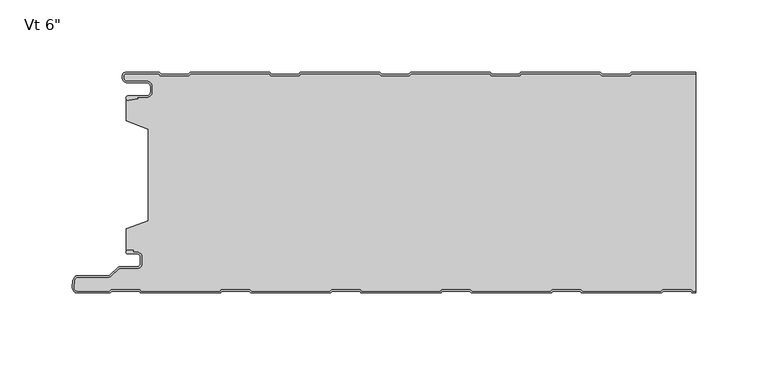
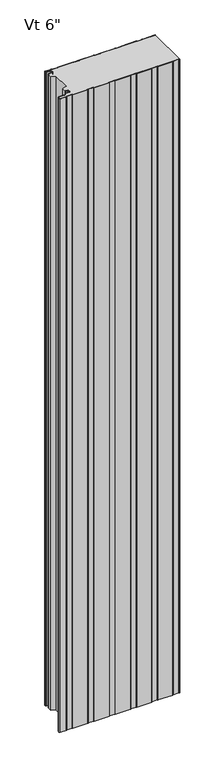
"""IFC4 building model written with IfcOpenShell, lengths in millimetres: plate geometry."""

from ifc_helpers import new_model, si_unit, point, frame, frame_2d, origin, origin_with_axes, place, context, project, spatial, polyline, circle_curve, trimmed, segment, composite_curve, outline, extrude, source, transform, mapped, element, save
from ifc_brep_helpers import plane_surface, cylinder_surface, revolved_surface, advanced_brep


def plate_17b216fb(model_context):
    return source(origin(), model_context, "Body", "SolidModel", [
        extrude(outline(composite_curve([segment(polyline([(-196.9639401, -1.03e-05), (-173.8991777, -1.03e-05), (-172.6989573, -1.2002307), (-153.8919247, -1.2002307), (-152.6916939, 0.0), (-97.6993404, 0.0), (-96.4991097, -1.2002307), (-77.6920771, -1.2002307), (-76.4918463, 0.0), (-21.5159312, 0.0), (-20.3157004, -1.2002307), (-1.5086678, -1.2002307), (-0.3084371, 0.0), (54.667478, 0.0), (55.8677088, -1.2002307), (74.6747414, -1.2002307), (75.8749721, 0.0), (130.8673256, 0.0), (132.0675564, -1.2002307), (150.874589, -1.2002307), (152.0748197, 0.0), (196.6137654, 0.0), (196.6137654, -1.0), (152.4890333, -1.0), (151.2888025, -2.2002307), (131.6533428, -2.2002307), (130.4531121, -1.0), (76.2891857, -1.0), (75.0889549, -2.2002307), (55.4534952, -2.2002307), (54.2532645, -1.0), (0.1057765, -1.0), (-1.0944543, -2.2002307), (-20.729914, -2.2002307), (-21.9301447, -1.0), (-76.0776328, -1.0), (-77.2778635, -2.2002307), (-96.9133232, -2.2002307), (-98.113554, -1.0), (-152.2774804, -1.0), (-153.4777111, -2.2002307), (-173.1131708, -2.2002307), (-174.3133912, -1.0000103), (-196.9839768, -1.0000103)]), True, "CONTINUOUS"), segment(trimmed(circle_curve(frame_2d((-197.0487242, -2.3984828)), 1.3999705), [point((-196.9839768, -1.0000103))], [point((-198.4486947, -2.3984828))], True, "CARTESIAN"), True, "CONTINUOUS"), segment(polyline([(-198.4486947, -2.3984828), (-198.4486947, -3.9515996)]), True, "CONTINUOUS"), segment(trimmed(circle_curve(frame_2d((-196.2386394, -3.9515996)), 2.2100553), [point((-198.4486947, -3.9515996))], [point((-196.2386394, -6.1616549))], True, "CARTESIAN"), True, "CONTINUOUS"), segment(polyline([(-196.2386394, -6.1616549), (-182.7094114, -6.1616549)]), True, "CONTINUOUS"), segment(trimmed(circle_curve(frame_2d((-182.7094114, -9.881641)), 3.7199861), [point((-182.7094114, -6.1616549))], [point((-178.9894252, -9.881641))], False, "CARTESIAN"), True, "CONTINUOUS"), segment(polyline([(-178.9894252, -9.881641), (-178.9894252, -13.5282389)]), True, "CONTINUOUS"), segment(trimmed(circle_curve(frame_2d((-182.7094216, -13.5282389)), 3.7199964), [point((-178.9894252, -13.5282389))], [point((-182.7094216, -17.2482353))], False, "CARTESIAN"), True, "CONTINUOUS"), segment(polyline([(-182.7094216, -17.2482353), (-189.0545396, -17.2482353), (-188.8919338, -18.1704184), (-195.1454629, -19.2730843)]), True, "CONTINUOUS"), segment(trimmed(circle_curve(frame_2d((-195.4101029, -17.7722363)), 1.524001), [point((-195.1454629, -19.2730843))], [point((-195.4101029, -16.2482353))], False, "CARTESIAN"), True, "CONTINUOUS"), segment(polyline([(-195.4101029, -16.2482353), (-182.7094216, -16.2482353)]), True, "CONTINUOUS"), segment(trimmed(circle_curve(frame_2d((-182.7094216, -13.5282389)), 2.7199964), [point((-182.7094216, -16.2482353))], [point((-179.9894252, -13.5282389))], True, "CARTESIAN"), True, "CONTINUOUS"), segment(polyline([(-179.9894252, -13.5282389), (-179.9894252, -9.881641)]), True, "CONTINUOUS"), segment(trimmed(circle_curve(frame_2d((-182.7094114, -9.881641)), 2.7199861), [point((-179.9894252, -9.881641))], [point((-182.7094114, -7.1616549))], True, "CARTESIAN"), True, "CONTINUOUS"), segment(polyline([(-182.7094114, -7.1616549), (-196.2386394, -7.1616549)]), True, "CONTINUOUS"), segment(trimmed(circle_curve(frame_2d((-196.2386394, -3.9515996)), 3.2100553), [point((-196.2386394, -7.1616549))], [point((-199.4486948, -3.9515996))], False, "CARTESIAN"), True, "CONTINUOUS"), segment(polyline([(-199.4486948, -3.9515996), (-199.4486947, -2.3984828)]), True, "CONTINUOUS"), segment(trimmed(circle_curve(frame_2d((-197.0487242, -2.3984828)), 2.3999705), [point((-199.4486947, -2.3984828))], [point((-196.9639401, -1.03e-05))], False, "CARTESIAN"), True, "CONTINUOUS")], self_intersect=False)), origin_with_axes(), (0.0, 0.0, 1.0), 2400.0),
        extrude(outline(composite_curve([segment(polyline([(-195.7329864, -122.9057711), (-191.9745857, -122.9057711), (-191.9745857, -124.3042547), (-189.2754693, -124.3042547)]), True, "CONTINUOUS"), segment(trimmed(circle_curve(frame_2d((-189.2754693, -127.6542546)), 3.3499999), [point((-189.2754693, -124.3042547))], [point((-185.9254694, -127.6542546))], False, "CARTESIAN"), True, "CONTINUOUS"), segment(polyline([(-185.9254694, -127.6542546), (-185.9254694, -132.0542544)]), True, "CONTINUOUS"), segment(trimmed(circle_curve(frame_2d((-189.2754693, -132.0542544)), 3.3499999), [point((-185.9254694, -132.0542544))], [point((-189.2754693, -135.4042543))], False, "CARTESIAN"), True, "CONTINUOUS"), segment(polyline([(-189.2754693, -135.4042543), (-201.0863815, -135.4042543)]), True, "CONTINUOUS"), segment(trimmed(circle_curve(frame_2d((-201.0863815, -137.1042543)), 1.7), [point((-201.0863815, -135.4042543))], [point((-202.288463, -135.9021728))], True, "CARTESIAN"), True, "CONTINUOUS"), segment(polyline([(-202.288463, -135.9021728), (-207.029022, -140.6427317)]), True, "CONTINUOUS"), segment(trimmed(circle_curve(frame_2d((-208.8674996, -138.8042541)), 2.6), [point((-207.029022, -140.6427317))], [point((-208.8674996, -141.4042541))], False, "CARTESIAN"), True, "CONTINUOUS"), segment(polyline([(-208.8674996, -141.4042541), (-229.8742569, -141.4042541)]), True, "CONTINUOUS"), segment(trimmed(circle_curve(frame_2d((-229.8742569, -144.1042541)), 2.7), [point((-229.8742569, -141.4042541))], [point((-232.563964, -143.8687213))], True, "CARTESIAN"), True, "CONTINUOUS"), segment(polyline([(-232.563964, -143.8687213), (-232.9796492, -148.6157099)]), True, "CONTINUOUS"), segment(trimmed(circle_curve(frame_2d((-230.4287597, -148.8390867)), 2.5606512), [point((-232.9796492, -148.6157099))], [point((-230.4287597, -151.3997378))], True, "CARTESIAN"), True, "CONTINUOUS"), segment(polyline([(-230.4287597, -151.3997378), (-208.4557382, -151.3997378), (-207.2557697, -150.1997693), (-187.5363572, -150.1997693), (-186.3361265, -151.4), (-132.2559947, -151.4), (-131.055764, -150.1997693), (-111.3363515, -150.1997693), (-110.1361208, -151.4), (-56.055989, -151.4), (-54.8557583, -150.1997693), (-35.1363458, -150.1997693), (-33.9361151, -151.4), (20.1440167, -151.4), (21.3442474, -150.1997693), (41.0636599, -150.1997693), (42.2638906, -151.4), (96.3440224, -151.4), (97.5442531, -150.1997693), (117.2636656, -150.1997693), (118.4638963, -151.4), (172.5440281, -151.4), (173.7442588, -150.1997693), (193.4636713, -150.1997693), (194.663902, -151.4), (196.6137654, -151.4), (196.6137654, -152.4), (194.8333369, -152.4)]), True, "CONTINUOUS"), segment(trimmed(circle_curve(frame_2d((194.8256836, -151.0000237)), 1.3999972), [point((194.8333369, -152.4))], [point((193.7816329, -151.9327349))], False, "CARTESIAN"), True, "CONTINUOUS"), segment(polyline([(193.7816329, -151.9327349), (193.0486673, -151.1997693), (174.1579981, -151.1997693), (173.4250534, -151.932714)]), True, "CONTINUOUS"), segment(trimmed(circle_curve(frame_2d((172.3810026, -151.0000028)), 1.3999972), [point((173.4250534, -151.932714))], [point((172.3810026, -152.4))], False, "CARTESIAN"), True, "CONTINUOUS"), segment(polyline([(172.3810026, -152.4), (118.6334893, -152.4)]), True, "CONTINUOUS"), segment(trimmed(circle_curve(frame_2d((118.625836, -151.0000237)), 1.3999972), [point((118.6334893, -152.4))], [point((117.5817853, -151.9327349))], False, "CARTESIAN"), True, "CONTINUOUS"), segment(polyline([(117.5817853, -151.9327349), (116.8488197, -151.1997693), (97.9581505, -151.1997693), (97.2252058, -151.932714)]), True, "CONTINUOUS"), segment(trimmed(circle_curve(frame_2d((96.181155, -151.0000028)), 1.3999972), [point((97.2252058, -151.932714))], [point((96.181155, -152.4))], False, "CARTESIAN"), True, "CONTINUOUS"), segment(polyline([(96.181155, -152.4), (42.4336417, -152.4)]), True, "CONTINUOUS"), segment(trimmed(circle_curve(frame_2d((42.4259884, -151.0000237)), 1.3999972), [point((42.4336417, -152.4))], [point((41.3819376, -151.9327349))], False, "CARTESIAN"), True, "CONTINUOUS"), segment(polyline([(41.3819376, -151.9327349), (40.6489721, -151.1997693), (21.7583029, -151.1997693), (21.0253582, -151.932714)]), True, "CONTINUOUS"), segment(trimmed(circle_curve(frame_2d((19.9813074, -151.0000028)), 1.3999972), [point((21.0253582, -151.932714))], [point((19.9813074, -152.4))], False, "CARTESIAN"), True, "CONTINUOUS"), segment(polyline([(19.9813074, -152.4), (-33.7662059, -152.4)]), True, "CONTINUOUS"), segment(trimmed(circle_curve(frame_2d((-33.7738592, -151.0000237)), 1.3999972), [point((-33.7662059, -152.4))], [point((-34.81791, -151.9327349))], False, "CARTESIAN"), True, "CONTINUOUS"), segment(polyline([(-34.81791, -151.9327349), (-35.5508755, -151.1997693), (-54.4415447, -151.1997693), (-55.1744894, -151.932714)]), True, "CONTINUOUS"), segment(trimmed(circle_curve(frame_2d((-56.2185402, -151.0000028)), 1.3999972), [point((-55.1744894, -151.932714))], [point((-56.2185402, -152.4))], False, "CARTESIAN"), True, "CONTINUOUS"), segment(polyline([(-56.2185402, -152.4), (-109.9660535, -152.4)]), True, "CONTINUOUS"), segment(trimmed(circle_curve(frame_2d((-109.9737068, -151.0000237)), 1.3999972), [point((-109.9660535, -152.4))], [point((-111.0177576, -151.9327349))], False, "CARTESIAN"), True, "CONTINUOUS"), segment(polyline([(-111.0177576, -151.9327349), (-111.7507231, -151.1997693), (-130.6413923, -151.1997693), (-131.374337, -151.932714)]), True, "CONTINUOUS"), segment(trimmed(circle_curve(frame_2d((-132.4183878, -151.0000028)), 1.3999972), [point((-131.374337, -151.932714))], [point((-132.4183878, -152.4))], False, "CARTESIAN"), True, "CONTINUOUS"), segment(polyline([(-132.4183878, -152.4), (-186.1659011, -152.4)]), True, "CONTINUOUS"), segment(trimmed(circle_curve(frame_2d((-186.1735544, -151.0000237)), 1.3999972), [point((-186.1659011, -152.4))], [point((-187.2176052, -151.9327349))], False, "CARTESIAN"), True, "CONTINUOUS"), segment(polyline([(-187.2176052, -151.9327349), (-187.9505707, -151.1997693), (-206.8415561, -151.1997693), (-207.5742824, -151.9324955)]), True, "CONTINUOUS"), segment(trimmed(circle_curve(frame_2d((-208.6182354, -150.9998717)), 1.3998661), [point((-207.5742824, -151.9324955))], [point((-208.6182354, -152.3997378))], False, "CARTESIAN"), True, "CONTINUOUS"), segment(polyline([(-208.6182354, -152.3997378), (-230.4287597, -152.3997378)]), True, "CONTINUOUS"), segment(trimmed(circle_curve(frame_2d((-230.4287597, -148.8390867)), 3.5606512), [point((-230.4287597, -152.3997378))], [point((-233.975837, -148.5284755))], False, "CARTESIAN"), True, "CONTINUOUS"), segment(polyline([(-233.975837, -148.5284755), (-233.5601518, -143.781487)]), True, "CONTINUOUS"), segment(trimmed(circle_curve(frame_2d((-229.8742569, -144.1042541)), 3.7), [point((-233.5601518, -143.781487))], [point((-229.8742569, -140.4042541))], False, "CARTESIAN"), True, "CONTINUOUS"), segment(polyline([(-229.8742569, -140.4042541), (-208.8674996, -140.4042541)]), True, "CONTINUOUS"), segment(trimmed(circle_curve(frame_2d((-208.8674996, -138.8042541)), 1.6), [point((-208.8674996, -140.4042541))], [point((-207.7361288, -139.935625))], True, "CARTESIAN"), True, "CONTINUOUS"), segment(polyline([(-207.7361288, -139.935625), (-202.9955698, -135.195066)]), True, "CONTINUOUS"), segment(trimmed(circle_curve(frame_2d((-201.0863815, -137.1042543)), 2.7), [point((-202.9955698, -135.195066))], [point((-201.0863815, -134.4042543))], False, "CARTESIAN"), True, "CONTINUOUS"), segment(polyline([(-201.0863815, -134.4042543), (-189.2754693, -134.4042543)]), True, "CONTINUOUS"), segment(trimmed(circle_curve(frame_2d((-189.2754693, -132.0542544)), 2.3499999), [point((-189.2754693, -134.4042543))], [point((-186.9254694, -132.0542544))], True, "CARTESIAN"), True, "CONTINUOUS"), segment(polyline([(-186.9254694, -132.0542544), (-186.9254694, -127.6542546)]), True, "CONTINUOUS"), segment(trimmed(circle_curve(frame_2d((-189.2754693, -127.6542546)), 2.3499999), [point((-186.9254694, -127.6542546))], [point((-189.2754693, -125.3042547))], True, "CARTESIAN"), True, "CONTINUOUS"), segment(polyline([(-189.2754693, -125.3042547), (-195.7947883, -125.3042547)]), True, "CONTINUOUS"), segment(trimmed(circle_curve(frame_2d((-195.734501, -124.1057701)), 1.2), [point((-195.7947883, -125.3042547))], [point((-195.7329864, -122.9057711))], False, "CARTESIAN"), True, "CONTINUOUS")], self_intersect=False)), origin_with_axes(), (0.0, 0.0, 1.0), 2400.0),
        advanced_brep(
        [(-189.2754693, -124.3042547, 2400.0), (-185.9254694, -127.6542546, 2400.0), (-185.9254694, -132.0542544, 2400.0), (-189.2754693, -135.4042543, 2400.0), (-201.0863815, -135.4042543, 2400.0), (-202.288463, -135.9021728, 2400.0), (-207.029022, -140.6427317, 2400.0), (-208.8674996, -141.4042541, 2400.0), (-229.8742569, -141.4042541, 2400.0), (-232.563964, -143.8687213, 2400.0), (-232.9796492, -148.6157099, 2400.0), (-230.4287597, -151.3997378, 2400.0), (-208.4557382, -151.3997378, 2400.0), (-207.2557697, -150.1997693, 2400.0), (-187.5363572, -150.1997693, 2400.0), (-186.3361265, -151.4, 2400.0), (-132.2559947, -151.4, 2400.0), (-131.055764, -150.1997693, 2400.0), (-111.3363515, -150.1997693, 2400.0), (-110.1361208, -151.4, 2400.0), (-56.055989, -151.4, 2400.0), (-54.8557583, -150.1997693, 2400.0), (-35.1363458, -150.1997693, 2400.0), (-33.9361151, -151.4, 2400.0), (20.1440167, -151.4, 2400.0), (21.3442474, -150.1997693, 2400.0), (41.0636599, -150.1997693, 2400.0), (42.2638906, -151.4, 2400.0), (96.3440224, -151.4, 2400.0), (97.5442531, -150.1997693, 2400.0), (117.2636656, -150.1997693, 2400.0), (118.4638963, -151.4, 2400.0), (172.5440281, -151.4, 2400.0), (173.7442588, -150.1997693, 2400.0), (193.4636713, -150.1997693, 2400.0), (194.663902, -151.4, 2400.0), (196.6137654, -151.4, 2400.0), (196.6137654, -1.0, 2400.0), (152.4890333, -1.0, 2400.0), (151.2888025, -2.2002307, 2400.0), (131.6533428, -2.2002307, 2400.0), (130.4531121, -1.0, 2400.0), (76.2891857, -1.0, 2400.0), (75.0889549, -2.2002307, 2400.0), (55.4534952, -2.2002307, 2400.0), (54.2532645, -1.0, 2400.0), (0.1057765, -1.0, 2400.0), (-1.0944543, -2.2002307, 2400.0), (-20.729914, -2.2002307, 2400.0), (-21.9301447, -1.0, 2400.0), (-76.0776328, -1.0, 2400.0), (-77.2778635, -2.2002307, 2400.0), (-96.9133232, -2.2002307, 2400.0), (-98.113554, -1.0, 2400.0), (-152.2774804, -1.0, 2400.0), (-153.4777111, -2.2002307, 2400.0), (-173.1131708, -2.2002307, 2400.0), (-174.3133912, -1.0000103, 2400.0), (-196.9839768, -1.0000103, 2400.0), (-198.4486947, -2.3984828, 2400.0), (-198.4486947, -3.9515996, 2400.0), (-196.2386394, -6.1616549, 2400.0), (-182.7094114, -6.1616549, 2400.0), (-178.9894252, -9.881641, 2400.0), (-178.9894252, -13.5282389, 2400.0), (-182.7094216, -17.2482353, 2400.0), (-189.0545396, -17.2482353, 2400.0), (-188.8919338, -18.1704184, 2400.0), (-195.1454629, -19.2730843, 2400.0), (-196.5999998, -18.7244571, 2400.0), (-196.5999998, -33.5050578, 2400.0), (-181.6020466, -39.1301019, 2400.0), (-181.588281, -102.5686066, 2400.0), (-196.5999998, -108.192572, 2400.0), (-196.5999998, -123.2745591, 2400.0), (-195.7329864, -122.9057711, 2400.0), (-191.9745857, -122.9057711, 2400.0), (-191.9745857, -124.3042547, 2400.0), (-189.2754693, -124.3042547, 0.0), (-191.9745857, -124.3042547, 0.0), (-191.9745857, -122.9057711, 0.0), (-195.7329864, -122.9057711, 0.0), (-196.5999998, -123.2745591, 0.0), (-196.5999998, -108.192572, 0.0), (-181.6020466, -102.5683444, 0.0), (-181.588281, -39.1301019, 0.0), (-196.5999998, -33.5050578, 0.0), (-196.5999998, -18.7244571, 0.0), (-195.1454629, -19.2730843, 0.0), (-188.8919338, -18.1704184, 0.0), (-189.0545396, -17.2482353, 0.0), (-182.7094216, -17.2482353, 0.0), (-178.9894252, -13.5282389, 0.0), (-178.9894252, -9.881641, 0.0), (-182.7094114, -6.1616549, 0.0), (-196.2386394, -6.1616549, 0.0), (-198.4486948, -3.9515996, 0.0), (-198.4486947, -2.3984828, 0.0), (-196.9839768, -1.0000103, 0.0), (-174.3133912, -1.0000103, 0.0), (-173.1131708, -2.2002307, 0.0), (-153.4777111, -2.2002307, 0.0), (-152.2774804, -1.0, 0.0), (-98.113554, -1.0, 0.0), (-96.9133232, -2.2002307, 0.0), (-77.2778635, -2.2002307, 0.0), (-76.0776328, -1.0, 0.0), (-21.9301447, -1.0, 0.0), (-20.729914, -2.2002307, 0.0), (-1.0944543, -2.2002307, 0.0), (0.1057765, -1.0, 0.0), (54.2532645, -1.0, 0.0), (55.4534952, -2.2002307, 0.0), (75.0889549, -2.2002307, 0.0), (76.2891857, -1.0, 0.0), (130.4531121, -1.0, 0.0), (131.6533428, -2.2002307, 0.0), (151.2888025, -2.2002307, 0.0), (152.4890333, -1.0, 0.0), (196.6137654, -1.0, 0.0), (196.6137654, -151.4, 0.0), (194.663902, -151.4, 0.0), (193.4636713, -150.1997693, 0.0), (173.7442588, -150.1997693, 0.0), (172.5440281, -151.4, 0.0), (118.4638963, -151.4, 0.0), (117.2636656, -150.1997693, 0.0), (97.5442531, -150.1997693, 0.0), (96.3440224, -151.4, 0.0), (42.2638906, -151.4, 0.0), (41.0636599, -150.1997693, 0.0), (21.3442474, -150.1997693, 0.0), (20.1440167, -151.4, 0.0), (-33.9361151, -151.4, 0.0), (-35.1363458, -150.1997693, 0.0), (-54.8557583, -150.1997693, 0.0), (-56.055989, -151.4, 0.0), (-110.1361208, -151.4, 0.0), (-111.3363515, -150.1997693, 0.0), (-131.055764, -150.1997693, 0.0), (-132.2559947, -151.4, 0.0), (-186.3361265, -151.4, 0.0), (-187.5363572, -150.1997693, 0.0), (-207.2557697, -150.1997693, 0.0), (-208.4557382, -151.3997378, 0.0), (-230.4287597, -151.3997378, 0.0), (-232.9796492, -148.6157099, 0.0), (-232.563964, -143.8687213, 0.0), (-229.8742569, -141.4042541, 0.0), (-208.8674996, -141.4042541, 0.0), (-207.029022, -140.6427317, 0.0), (-202.288463, -135.9021728, 0.0), (-201.0863815, -135.4042543, 0.0), (-189.2754693, -135.4042543, 0.0), (-185.9254694, -132.0542544, 0.0), (-185.9254694, -127.6542546, 0.0)],
        [
            (0, 1, circle_curve(frame((-189.2754693, -127.6542546, 2400.0), z_axis=(0.0, 0.0, -1.0), x_axis=(-1.0, 0.0, 0.0)), 3.3499999)),
            (1, 2),
            (2, 3, circle_curve(frame((-189.2754693, -132.0542544, 2400.0), z_axis=(0.0, 0.0, -1.0), x_axis=(-1.0, 0.0, 0.0)), 3.3499999)),
            (3, 4),
            (4, 5, circle_curve(frame((-201.0863815, -137.1042543, 2400.0), z_axis=(0.0, 0.0, 1.0), x_axis=(-1.0, 0.0, 0.0)), 1.7)),
            (5, 6),
            (6, 7, circle_curve(frame((-208.8674996, -138.8042541, 2400.0), z_axis=(0.0, 0.0, -1.0), x_axis=(-1.0, 0.0, 0.0)), 2.6)),
            (7, 8),
            (8, 9, circle_curve(frame((-229.8742569, -144.1042541, 2400.0), z_axis=(0.0, 0.0, 1.0), x_axis=(-1.0, 0.0, 0.0)), 2.7)),
            (9, 10),
            (10, 11, circle_curve(frame((-230.4287597, -148.8390867, 2400.0), z_axis=(0.0, 0.0, 1.0), x_axis=(-1.0, 0.0, 0.0)), 2.5606512)),
            (11, 12),
            (12, 13),
            (13, 14),
            (14, 15),
            (15, 16),
            (16, 17),
            (17, 18),
            (18, 19),
            (19, 20),
            (20, 21),
            (21, 22),
            (22, 23),
            (23, 24),
            (24, 25),
            (25, 26),
            (26, 27),
            (27, 28),
            (28, 29),
            (29, 30),
            (30, 31),
            (31, 32),
            (32, 33),
            (33, 34),
            (34, 35),
            (35, 36),
            (36, 37),
            (37, 38),
            (38, 39),
            (39, 40),
            (40, 41),
            (41, 42),
            (42, 43),
            (43, 44),
            (44, 45),
            (45, 46),
            (46, 47),
            (47, 48),
            (48, 49),
            (49, 50),
            (50, 51),
            (51, 52),
            (52, 53),
            (53, 54),
            (54, 55),
            (55, 56),
            (56, 57),
            (57, 58),
            (58, 59, circle_curve(frame((-197.0487242, -2.3984828, 2400.0), z_axis=(0.0, 0.0, 1.0), x_axis=(-1.0, 0.0, 0.0)), 1.3999705)),
            (59, 60),
            (60, 61, circle_curve(frame((-196.2386394, -3.9515996, 2400.0), z_axis=(0.0, 0.0, 1.0), x_axis=(-1.0, 0.0, 0.0)), 2.2100553)),
            (61, 62),
            (62, 63, circle_curve(frame((-182.7094114, -9.881641, 2400.0), z_axis=(0.0, 0.0, -1.0), x_axis=(-1.0, 0.0, 0.0)), 3.7199861)),
            (63, 64),
            (64, 65, circle_curve(frame((-182.7094216, -13.5282389, 2400.0), z_axis=(0.0, 0.0, -1.0), x_axis=(-1.0, 0.0, 0.0)), 3.7199964)),
            (65, 66),
            (66, 67),
            (67, 68),
            (68, 69, circle_curve(frame((-195.4101029, -17.7722363, 2400.0), z_axis=(0.0, 0.0, -1.0), x_axis=(-1.0, 0.0, 0.0)), 1.524001)),
            (69, 70),
            (70, 71),
            (71, 72),
            (72, 73),
            (73, 74),
            (74, 75, circle_curve(frame((-195.734501, -124.1057701, 2400.0), z_axis=(0.0, 0.0, -1.0), x_axis=(-1.0, 0.0, 0.0)), 1.2)),
            (75, 76),
            (76, 77),
            (77, 0),
            (78, 79),
            (79, 80),
            (80, 81),
            (81, 82, circle_curve(frame((-195.734501, -124.1057701, 0.0), z_axis=(0.0, 0.0, 1.0), x_axis=(-1.0, 0.0, 0.0)), 1.2)),
            (82, 83),
            (83, 84),
            (84, 85),
            (85, 86),
            (86, 87),
            (87, 88, circle_curve(frame((-195.4101029, -17.7722363, 0.0), z_axis=(0.0, 0.0, 1.0), x_axis=(-1.0, 0.0, 0.0)), 1.524001)),
            (88, 89),
            (89, 90),
            (90, 91),
            (91, 92, circle_curve(frame((-182.7094216, -13.5282389, 0.0), z_axis=(0.0, 0.0, 1.0), x_axis=(-1.0, 0.0, 0.0)), 3.7199964)),
            (92, 93),
            (93, 94, circle_curve(frame((-182.7094114, -9.881641, 0.0), z_axis=(0.0, 0.0, 1.0), x_axis=(-1.0, 0.0, 0.0)), 3.7199861)),
            (94, 95),
            (95, 96, circle_curve(frame((-196.2386394, -3.9515996, 0.0), z_axis=(0.0, 0.0, -1.0), x_axis=(-1.0, 0.0, 0.0)), 2.2100553)),
            (96, 97),
            (97, 98, circle_curve(frame((-197.0487242, -2.3984828, 0.0), z_axis=(0.0, 0.0, -1.0), x_axis=(-1.0, 0.0, 0.0)), 1.3999705)),
            (98, 99),
            (99, 100),
            (100, 101),
            (101, 102),
            (102, 103),
            (103, 104),
            (104, 105),
            (105, 106),
            (106, 107),
            (107, 108),
            (108, 109),
            (109, 110),
            (110, 111),
            (111, 112),
            (112, 113),
            (113, 114),
            (114, 115),
            (115, 116),
            (116, 117),
            (117, 118),
            (118, 119),
            (119, 120),
            (120, 121),
            (121, 122),
            (122, 123),
            (123, 124),
            (124, 125),
            (125, 126),
            (126, 127),
            (127, 128),
            (128, 129),
            (129, 130),
            (130, 131),
            (131, 132),
            (132, 133),
            (133, 134),
            (134, 135),
            (135, 136),
            (136, 137),
            (137, 138),
            (138, 139),
            (139, 140),
            (140, 141),
            (141, 142),
            (142, 143),
            (143, 144),
            (144, 145),
            (145, 146, circle_curve(frame((-230.4287597, -148.8390867, 0.0), z_axis=(0.0, 0.0, -1.0), x_axis=(-1.0, 0.0, 0.0)), 2.5606512)),
            (146, 147),
            (147, 148, circle_curve(frame((-229.8742569, -144.1042541, 0.0), z_axis=(0.0, 0.0, -1.0), x_axis=(-1.0, 0.0, 0.0)), 2.7)),
            (148, 149),
            (149, 150, circle_curve(frame((-208.8674996, -138.8042541, 0.0), z_axis=(0.0, 0.0, 1.0), x_axis=(-1.0, 0.0, 0.0)), 2.6)),
            (150, 151),
            (151, 152, circle_curve(frame((-201.0863815, -137.1042543, 0.0), z_axis=(0.0, 0.0, -1.0), x_axis=(-1.0, 0.0, 0.0)), 1.7)),
            (152, 153),
            (153, 154, circle_curve(frame((-189.2754693, -132.0542544, 0.0), z_axis=(0.0, 0.0, 1.0), x_axis=(-1.0, 0.0, 0.0)), 3.3499999)),
            (154, 155),
            (155, 78, circle_curve(frame((-189.2754693, -127.6542546, 0.0), z_axis=(0.0, 0.0, 1.0), x_axis=(-1.0, 0.0, 0.0)), 3.3499999)),
            (62, 94),
            (93, 63),
            (61, 95),
            (60, 96),
            (59, 97),
            (58, 98),
            (57, 99),
            (56, 100),
            (55, 101),
            (54, 102),
            (53, 103),
            (52, 104),
            (51, 105),
            (50, 106),
            (49, 107),
            (48, 108),
            (47, 109),
            (46, 110),
            (45, 111),
            (44, 112),
            (43, 113),
            (42, 114),
            (41, 115),
            (40, 116),
            (39, 117),
            (38, 118),
            (37, 119),
            (70, 86),
            (85, 71),
            (69, 87),
            (68, 88),
            (67, 89),
            (66, 90),
            (65, 91),
            (64, 92),
            (84, 72),
            (0, 78),
            (155, 1),
            (77, 79),
            (76, 80),
            (75, 81),
            (74, 82),
            (10, 146),
            (145, 11),
            (9, 147),
            (8, 148),
            (7, 149),
            (6, 150),
            (5, 151),
            (4, 152),
            (3, 153),
            (2, 154),
            (73, 83),
            (144, 12),
            (13, 143),
            (142, 14),
            (141, 15),
            (140, 16),
            (17, 139),
            (138, 18),
            (137, 19),
            (136, 20),
            (21, 135),
            (134, 22),
            (133, 23),
            (132, 24),
            (25, 131),
            (130, 26),
            (129, 27),
            (128, 28),
            (29, 127),
            (126, 30),
            (125, 31),
            (124, 32),
            (33, 123),
            (122, 34),
            (121, 35),
            (120, 36),
        ],
        [
            plane_surface(frame((336.2637657, -151.4, 2400.0), z_axis=(0.0, 0.0, 1.0), x_axis=(0.0, -1.0, 0.0))),
            plane_surface(frame((336.2637657, -151.4, 0.0), z_axis=(0.0, 0.0, -1.0), x_axis=(0.0, -1.0, 0.0))),
            revolved_surface(polyline([(-186.4293975, -9.881641, 0.0), (-186.4293975, -9.881641, 2400.0)]), (-182.7094114, -9.881641, 2400.0), (0.0, 0.0, -1.0)),
            plane_surface(frame((-182.7094114, -6.1616549, 2400.0), z_axis=(0.0, -1.0, 0.0), x_axis=(0.0, 0.0, -1.0))),
            cylinder_surface(frame((-196.2386394, -3.9515996, 2400.0), z_axis=(0.0, 0.0, 1.0), x_axis=(-1.0, 0.0, 0.0)), 2.2100553),
            plane_surface(frame((-198.4486947, -3.9515996, 2400.0), z_axis=(-1.0, 0.0, 0.0), x_axis=(0.0, 0.0, -1.0))),
            cylinder_surface(frame((-197.0487242, -2.3984828, 2400.0), z_axis=(0.0, 0.0, 1.0), x_axis=(-1.0, 0.0, 0.0)), 1.3999705),
            plane_surface(frame((-196.9839768, -1.0000103, 2400.0), z_axis=(0.0, 1.0, 0.0), x_axis=(0.0, 0.0, -1.0))),
            plane_surface(frame((-174.3133912, -1.0000103, 2400.0), z_axis=(0.7071067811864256, 0.7071067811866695, 0.0), x_axis=(0.0, 0.0, -1.0))),
            plane_surface(frame((-163.295441, -2.2002307, 2400.0), z_axis=(0.0, 1.0, 0.0), x_axis=(0.0, 0.0, -1.0))),
            plane_surface(frame((-153.4777111, -2.2002307, 2400.0), z_axis=(-0.7071067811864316, 0.7071067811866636, 0.0), x_axis=(0.0, 0.0, -1.0))),
            plane_surface(frame((-152.2774804, -1.0, 2400.0), z_axis=(0.0, 1.0, 0.0), x_axis=(0.0, 0.0, -1.0))),
            plane_surface(frame((-98.113554, -1.0, 2400.0), z_axis=(0.7071067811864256, 0.7071067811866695, 0.0), x_axis=(0.0, 0.0, -1.0))),
            plane_surface(frame((-87.0955934, -2.2002307, 2400.0), z_axis=(0.0, 1.0, 0.0), x_axis=(0.0, 0.0, -1.0))),
            plane_surface(frame((-77.2778635, -2.2002307, 2400.0), z_axis=(-0.7071067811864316, 0.7071067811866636, 0.0), x_axis=(0.0, 0.0, -1.0))),
            plane_surface(frame((-76.0776328, -1.0, 2400.0), z_axis=(0.0, 1.0, 0.0), x_axis=(0.0, 0.0, -1.0))),
            plane_surface(frame((-21.9301447, -1.0, 2400.0), z_axis=(0.7071067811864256, 0.7071067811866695, 0.0), x_axis=(0.0, 0.0, -1.0))),
            plane_surface(frame((-10.9121841, -2.2002307, 2400.0), z_axis=(0.0, 1.0, 0.0), x_axis=(0.0, 0.0, -1.0))),
            plane_surface(frame((-1.0944543, -2.2002307, 2400.0), z_axis=(-0.7071067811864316, 0.7071067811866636, 0.0), x_axis=(0.0, 0.0, -1.0))),
            plane_surface(frame((0.1057765, -1.0, 2400.0), z_axis=(0.0, 1.0, 0.0), x_axis=(0.0, 0.0, -1.0))),
            plane_surface(frame((54.2532645, -1.0, 2400.0), z_axis=(0.7071067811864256, 0.7071067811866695, 0.0), x_axis=(0.0, 0.0, -1.0))),
            plane_surface(frame((65.2712251, -2.2002307, 2400.0), z_axis=(0.0, 1.0, 0.0), x_axis=(0.0, 0.0, -1.0))),
            plane_surface(frame((75.0889549, -2.2002307, 2400.0), z_axis=(-0.7071067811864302, 0.7071067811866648, 0.0), x_axis=(0.0, 0.0, -1.0))),
            plane_surface(frame((76.2891857, -1.0, 2400.0), z_axis=(0.0, 1.0, 0.0), x_axis=(0.0, 0.0, -1.0))),
            plane_surface(frame((130.4531121, -1.0, 2400.0), z_axis=(0.7071067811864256, 0.7071067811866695, 0.0), x_axis=(0.0, 0.0, -1.0))),
            plane_surface(frame((141.4710727, -2.2002307, 2400.0), z_axis=(0.0, 1.0, 0.0), x_axis=(0.0, 0.0, -1.0))),
            plane_surface(frame((151.2888025, -2.2002307, 2400.0), z_axis=(-0.7071067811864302, 0.7071067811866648, 0.0), x_axis=(0.0, 0.0, -1.0))),
            plane_surface(frame((152.4890333, -1.0, 2400.0), z_axis=(0.0, 1.0, 0.0), x_axis=(0.0, 0.0, -1.0))),
            plane_surface(frame((-181.6020466, -39.1301019, 2400.0), z_axis=(-0.35116785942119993, -0.9363125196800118, 0.0), x_axis=(0.0, 0.0, -1.0))),
            plane_surface(frame((-196.5999998, -33.5050578, 2400.0), z_axis=(-1.0, 0.0, 0.0), x_axis=(0.0, 0.0, -1.0))),
            revolved_surface(polyline([(-196.9341039, -17.7722363, 0.0), (-196.9341039, -17.7722363, 2400.0)]), (-195.4101029, -17.7722363, 2400.0), (0.0, 0.0, -1.0)),
            plane_surface(frame((-195.1454629, -19.2730843, 2400.0), z_axis=(-0.17364817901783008, 0.9848077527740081, 0.0), x_axis=(0.0, 0.0, -1.0))),
            plane_surface(frame((-188.8919338, -18.1704184, 2400.0), z_axis=(-0.9848077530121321, -0.17364817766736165, 0.0), x_axis=(0.0, 0.0, -1.0))),
            plane_surface(frame((-189.0545396, -17.2482353, 2400.0), z_axis=(0.0, 1.0, 0.0), x_axis=(0.0, 0.0, -1.0))),
            revolved_surface(polyline([(-186.42941800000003, -13.5282389, 0.0), (-186.42941800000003, -13.5282389, 2400.0)]), (-182.7094216, -13.5282389, 2400.0), (0.0, 0.0, -1.0)),
            plane_surface(frame((-178.9894252, -13.5282389, 2400.0), z_axis=(-1.0, 0.0, 0.0), x_axis=(0.0, 0.0, -1.0))),
            plane_surface(frame((-181.588281, -102.5686066, 2400.0), z_axis=(-1.0, 0.0, 0.0), x_axis=(0.0, 0.0, -1.0))),
            revolved_surface(polyline([(-192.6254692, -127.6542546, 0.0), (-192.6254692, -127.6542546, 2400.0)]), (-189.2754693, -127.6542546, 2400.0), (0.0, 0.0, -1.0)),
            plane_surface(frame((-189.2754693, -124.3042547, 2400.0), z_axis=(0.0, -1.0, 0.0), x_axis=(0.0, 0.0, -1.0))),
            plane_surface(frame((-191.9745857, -124.3042547, 2400.0), z_axis=(-1.0, 0.0, 0.0), x_axis=(0.0, 0.0, -1.0))),
            plane_surface(frame((-191.9745857, -122.9057711, 2400.0), z_axis=(0.0, -1.0, 0.0), x_axis=(0.0, 0.0, -1.0))),
            revolved_surface(polyline([(-196.93450099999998, -124.1057701, 0.0), (-196.93450099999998, -124.1057701, 2400.0)]), (-195.734501, -124.1057701, 2400.0), (0.0, 0.0, -1.0)),
            cylinder_surface(frame((-230.4287597, -148.8390867, 2400.0), z_axis=(0.0, 0.0, 1.0), x_axis=(-1.0, 0.0, 0.0)), 2.5606512),
            plane_surface(frame((-232.9796492, -148.6157099, 2400.0), z_axis=(-0.9961878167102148, 0.08723436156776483, 0.0), x_axis=(0.0, 0.0, -1.0))),
            cylinder_surface(frame((-229.8742569, -144.1042541, 2400.0), z_axis=(0.0, 0.0, 1.0), x_axis=(-1.0, 0.0, 0.0)), 2.7),
            plane_surface(frame((-229.8742569, -141.4042541, 2400.0), z_axis=(0.0, 1.0, 0.0), x_axis=(0.0, 0.0, -1.0))),
            revolved_surface(polyline([(-211.4674996, -138.8042541, 0.0), (-211.4674996, -138.8042541, 2400.0)]), (-208.8674996, -138.8042541, 2400.0), (0.0, 0.0, -1.0)),
            plane_surface(frame((-207.029022, -140.6427317, 2400.0), z_axis=(-0.7071067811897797, 0.7071067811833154, 0.0), x_axis=(0.0, 0.0, -1.0))),
            cylinder_surface(frame((-201.0863815, -137.1042543, 2400.0), z_axis=(0.0, 0.0, 1.0), x_axis=(-1.0, 0.0, 0.0)), 1.7),
            plane_surface(frame((-201.0863815, -135.4042543, 2400.0), z_axis=(0.0, 1.0, 0.0), x_axis=(0.0, 0.0, -1.0))),
            revolved_surface(polyline([(-192.6254692, -132.0542544, 0.0), (-192.6254692, -132.0542544, 2400.0)]), (-189.2754693, -132.0542544, 2400.0), (0.0, 0.0, -1.0)),
            plane_surface(frame((-185.9254694, -132.0542544, 2400.0), z_axis=(-1.0, 0.0, 0.0), x_axis=(0.0, 0.0, -1.0))),
            plane_surface(frame((-196.5999998, -123.2745591, 2400.0), z_axis=(-1.0, 0.0, 0.0), x_axis=(0.0, 0.0, -1.0))),
            plane_surface(frame((-196.5999998, -108.192572, 2400.0), z_axis=(-0.3511231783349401, 0.9363292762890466, 0.0), x_axis=(0.0, 0.0, -1.0))),
            plane_surface(frame((-208.4557382, -151.3997378, 2400.0), z_axis=(0.0, -1.0, 0.0), x_axis=(0.0, 0.0, -1.0))),
            plane_surface(frame((-187.5363572, -150.1997693, 2400.0), z_axis=(0.0, -1.0, 0.0), x_axis=(0.0, 0.0, -1.0))),
            plane_surface(frame((-207.2557697, -150.1997693, 2400.0), z_axis=(0.7071067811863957, -0.7071067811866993, 0.0), x_axis=(0.0, 0.0, -1.0))),
            plane_surface(frame((-186.3361265, -151.4, 2400.0), z_axis=(-0.7071067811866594, -0.7071067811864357, 0.0), x_axis=(0.0, 0.0, -1.0))),
            plane_surface(frame((-132.2559947, -151.4, 2400.0), z_axis=(0.0, -1.0, 0.0), x_axis=(0.0, 0.0, -1.0))),
            plane_surface(frame((-111.3363515, -150.1997693, 2400.0), z_axis=(0.0, -1.0, 0.0), x_axis=(0.0, 0.0, -1.0))),
            plane_surface(frame((-131.055764, -150.1997693, 2400.0), z_axis=(0.7071067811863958, -0.7071067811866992, 0.0), x_axis=(0.0, 0.0, -1.0))),
            plane_surface(frame((-110.1361208, -151.4, 2400.0), z_axis=(-0.7071067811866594, -0.7071067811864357, 0.0), x_axis=(0.0, 0.0, -1.0))),
            plane_surface(frame((-56.055989, -151.4, 2400.0), z_axis=(0.0, -1.0, 0.0), x_axis=(0.0, 0.0, -1.0))),
            plane_surface(frame((-35.1363458, -150.1997693, 2400.0), z_axis=(0.0, -1.0, 0.0), x_axis=(0.0, 0.0, -1.0))),
            plane_surface(frame((-54.8557583, -150.1997693, 2400.0), z_axis=(0.7071067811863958, -0.7071067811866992, 0.0), x_axis=(0.0, 0.0, -1.0))),
            plane_surface(frame((-33.9361151, -151.4, 2400.0), z_axis=(-0.7071067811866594, -0.7071067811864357, 0.0), x_axis=(0.0, 0.0, -1.0))),
            plane_surface(frame((20.1440167, -151.4, 2400.0), z_axis=(0.0, -1.0, 0.0), x_axis=(0.0, 0.0, -1.0))),
            plane_surface(frame((41.0636599, -150.1997693, 2400.0), z_axis=(0.0, -1.0, 0.0), x_axis=(0.0, 0.0, -1.0))),
            plane_surface(frame((21.3442474, -150.1997693, 2400.0), z_axis=(0.7071067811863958, -0.7071067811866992, 0.0), x_axis=(0.0, 0.0, -1.0))),
            plane_surface(frame((42.2638906, -151.4, 2400.0), z_axis=(-0.7071067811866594, -0.7071067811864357, 0.0), x_axis=(0.0, 0.0, -1.0))),
            plane_surface(frame((96.3440224, -151.4, 2400.0), z_axis=(0.0, -1.0, 0.0), x_axis=(0.0, 0.0, -1.0))),
            plane_surface(frame((117.2636656, -150.1997693, 2400.0), z_axis=(0.0, -1.0, 0.0), x_axis=(0.0, 0.0, -1.0))),
            plane_surface(frame((97.5442531, -150.1997693, 2400.0), z_axis=(0.7071067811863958, -0.7071067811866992, 0.0), x_axis=(0.0, 0.0, -1.0))),
            plane_surface(frame((118.4638963, -151.4, 2400.0), z_axis=(-0.7071067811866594, -0.7071067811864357, 0.0), x_axis=(0.0, 0.0, -1.0))),
            plane_surface(frame((172.5440281, -151.4, 2400.0), z_axis=(0.0, -1.0, 0.0), x_axis=(0.0, 0.0, -1.0))),
            plane_surface(frame((193.4636713, -150.1997693, 2400.0), z_axis=(0.0, -1.0, 0.0), x_axis=(0.0, 0.0, -1.0))),
            plane_surface(frame((173.7442588, -150.1997693, 2400.0), z_axis=(0.7071067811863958, -0.7071067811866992, 0.0), x_axis=(0.0, 0.0, -1.0))),
            plane_surface(frame((194.663902, -151.4, 2400.0), z_axis=(-0.7071067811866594, -0.7071067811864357, 0.0), x_axis=(0.0, 0.0, -1.0))),
            plane_surface(frame((248.7440338, -151.4, 2400.0), z_axis=(0.0, -1.0, 0.0), x_axis=(0.0, 0.0, -1.0))),
            plane_surface(frame((196.6137654, -164.4, 2400.0), z_axis=(1.0, 0.0, 0.0), x_axis=(0.0, 0.0, -1.0))),
        ],
        [
            (0, [[1, 2, 3, 4, 5, 6, 7, 8, 9, 10, 11, 12, 13, 14, 15, 16, 17, 18, 19, 20, 21, 22, 23, 24, 25, 26, 27, 28, 29, 30, 31, 32, 33, 34, 35, 36, 37, 38, 39, 40, 41, 42, 43, 44, 45, 46, 47, 48, 49, 50, 51, 52, 53, 54, 55, 56, 57, 58, 59, 60, 61, 62, 63, 64, 65, 66, 67, 68, 69, 70, 71, 72, 73, 74, 75, 76, 77, 78]]),
            (1, [[79, 80, 81, 82, 83, 84, 85, 86, 87, 88, 89, 90, 91, 92, 93, 94, 95, 96, 97, 98, 99, 100, 101, 102, 103, 104, 105, 106, 107, 108, 109, 110, 111, 112, 113, 114, 115, 116, 117, 118, 119, 120, 121, 122, 123, 124, 125, 126, 127, 128, 129, 130, 131, 132, 133, 134, 135, 136, 137, 138, 139, 140, 141, 142, 143, 144, 145, 146, 147, 148, 149, 150, 151, 152, 153, 154, 155, 156]]),
            (2, [[157, -94, 158, -63]]),
            (3, [[159, -95, -157, -62]]),
            (4, [[160, -96, -159, -61]]),
            (5, [[161, -97, -160, -60]]),
            (6, [[162, -98, -161, -59]]),
            (7, [[163, -99, -162, -58]]),
            (8, [[164, -100, -163, -57]]),
            (9, [[165, -101, -164, -56]]),
            (10, [[166, -102, -165, -55]]),
            (11, [[167, -103, -166, -54]]),
            (12, [[168, -104, -167, -53]]),
            (13, [[169, -105, -168, -52]]),
            (14, [[170, -106, -169, -51]]),
            (15, [[171, -107, -170, -50]]),
            (16, [[172, -108, -171, -49]]),
            (17, [[173, -109, -172, -48]]),
            (18, [[174, -110, -173, -47]]),
            (19, [[175, -111, -174, -46]]),
            (20, [[176, -112, -175, -45]]),
            (21, [[177, -113, -176, -44]]),
            (22, [[178, -114, -177, -43]]),
            (23, [[179, -115, -178, -42]]),
            (24, [[180, -116, -179, -41]]),
            (25, [[181, -117, -180, -40]]),
            (26, [[182, -118, -181, -39]]),
            (27, [[-38, 183, -119, -182]]),
            (28, [[184, -86, 185, -71]]),
            (29, [[186, -87, -184, -70]]),
            (30, [[187, -88, -186, -69]]),
            (31, [[188, -89, -187, -68]]),
            (32, [[189, -90, -188, -67]]),
            (33, [[190, -91, -189, -66]]),
            (34, [[191, -92, -190, -65]]),
            (35, [[-158, -93, -191, -64]]),
            (36, [[-185, -85, 192, -72]]),
            (37, [[193, -156, 194, -1]]),
            (38, [[195, -79, -193, -78]]),
            (39, [[196, -80, -195, -77]]),
            (40, [[197, -81, -196, -76]]),
            (41, [[198, -82, -197, -75]]),
            (42, [[199, -146, 200, -11]]),
            (43, [[201, -147, -199, -10]]),
            (44, [[202, -148, -201, -9]]),
            (45, [[203, -149, -202, -8]]),
            (46, [[204, -150, -203, -7]]),
            (47, [[205, -151, -204, -6]]),
            (48, [[206, -152, -205, -5]]),
            (49, [[207, -153, -206, -4]]),
            (50, [[208, -154, -207, -3]]),
            (51, [[-194, -155, -208, -2]]),
            (52, [[209, -83, -198, -74]]),
            (53, [[-192, -84, -209, -73]]),
            (54, [[-200, -145, 210, -12]]),
            (55, [[211, -143, 212, -14]]),
            (56, [[-210, -144, -211, -13]]),
            (57, [[-212, -142, 213, -15]]),
            (58, [[-213, -141, 214, -16]]),
            (59, [[215, -139, 216, -18]]),
            (60, [[-214, -140, -215, -17]]),
            (61, [[-216, -138, 217, -19]]),
            (62, [[-217, -137, 218, -20]]),
            (63, [[219, -135, 220, -22]]),
            (64, [[-218, -136, -219, -21]]),
            (65, [[-220, -134, 221, -23]]),
            (66, [[-221, -133, 222, -24]]),
            (67, [[223, -131, 224, -26]]),
            (68, [[-222, -132, -223, -25]]),
            (69, [[-224, -130, 225, -27]]),
            (70, [[-225, -129, 226, -28]]),
            (71, [[227, -127, 228, -30]]),
            (72, [[-226, -128, -227, -29]]),
            (73, [[-228, -126, 229, -31]]),
            (74, [[-229, -125, 230, -32]]),
            (75, [[231, -123, 232, -34]]),
            (76, [[-230, -124, -231, -33]]),
            (77, [[-232, -122, 233, -35]]),
            (78, [[-121, 234, -36, -233]]),
            (79, [[-234, -120, -183, -37]]),
        ],
    ),
    ])


if __name__ == "__main__":
    model = new_model("IFC4")
    model_context = context("Model", 3, world=origin())
    ifc_project = project(units=[si_unit("LENGTHUNIT", "METRE", prefix="MILLI")], contexts=[model_context])
    site = spatial("IfcSite", under=ifc_project)
    building = spatial("IfcBuilding", under=site)
    placement = place(None, origin())
    plate_shape = plate_17b216fb(model_context)
    element("IfcPlate", 1, ObjectType="KIP-42-KRHF-R19-CP-Vt-SL_SL : Vt 6\"", at=placement, inside=building, context=model_context, shape_type="MappedRepresentation", body=[
        mapped(plate_shape, transform((0.0, 0.0, 0.0), x_axis=(1.0, 0.0, 0.0), y_axis=(0.0, 1.0, 0.0), z_axis=(0.0, 0.0, 1.0))),
    ])
    save(model, "model.ifc")
